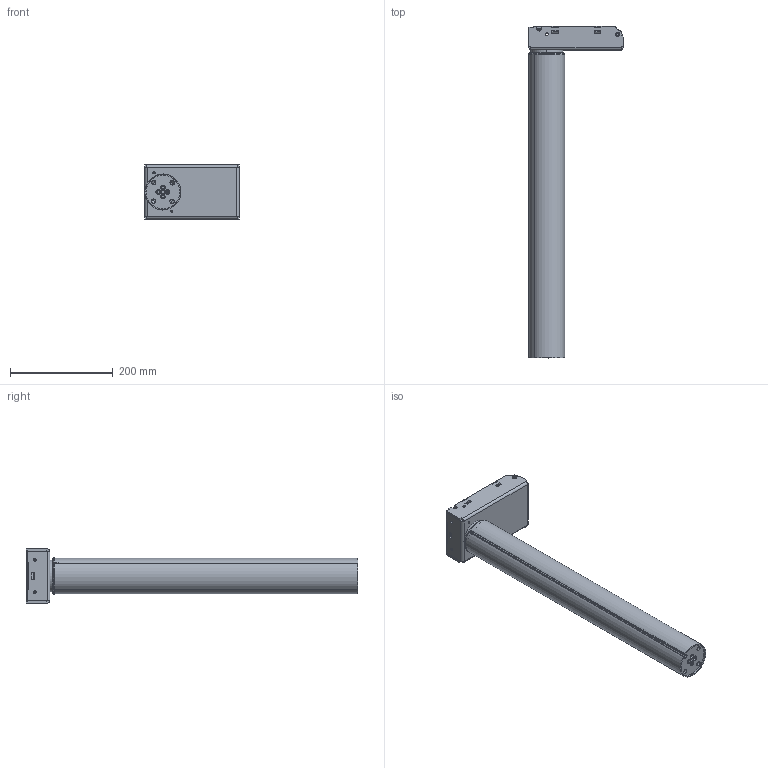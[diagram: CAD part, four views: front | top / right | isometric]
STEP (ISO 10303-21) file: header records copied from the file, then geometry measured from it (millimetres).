
FILE_DESCRIPTION (( 'STEP AP203' ), '1' );
FILE_NAME ('3D_TL14K.STEP', '2021-07-07T10:09:45', ( '' ), ( '' ), 'SwSTEP 2.0', 'SolidWorks 2015', '' );
FILE_SCHEMA (( 'CONFIG_CONTROL_DESIGN' ));
Products named in the file (1): 3D_TL14K
Bounding box: 183 x 645 x 108 mm (x, y, z)
Volume: 654981 mm3; surface area: 618296.3 mm2
Topology: 7 solids, 7 shells, 1779 faces, 4553 edges, 2631 vertices
Faces by surface type: cylinder 733, plane 441, bspline 262, torus 135, sphere 113, cone 95
Entity records: 64593 total; most frequent: CARTESIAN_POINT 23805, ORIENTED_EDGE 8812, DIRECTION 8345, EDGE_CURVE 4406, AXIS2_PLACEMENT_3D 3248, VERTEX_POINT 2631, EDGE_LOOP 1859, LINE 1849
